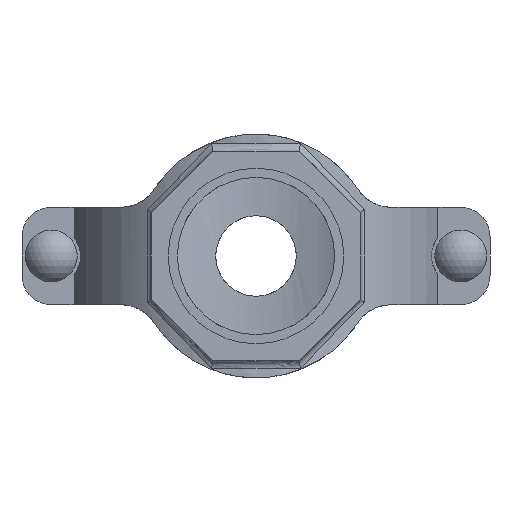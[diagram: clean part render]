
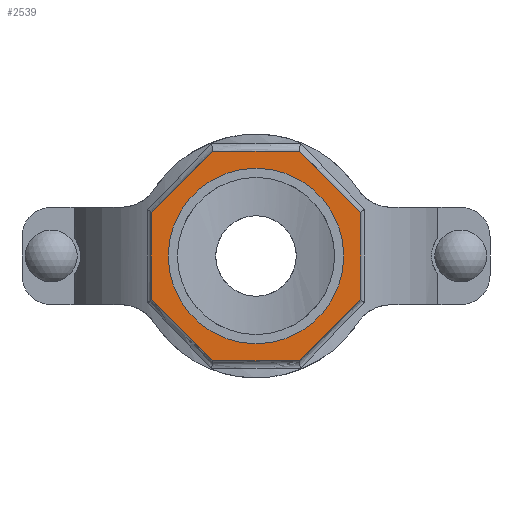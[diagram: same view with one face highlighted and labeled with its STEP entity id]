
A CAD part, front view. The second image highlights one B-rep face of the part: STEP entity #2539.
In plain terms, the highlighted planar face has unit normal (0, -1, 0) as drawn and (0, 1, 0) by its records, which use the part's own axes.
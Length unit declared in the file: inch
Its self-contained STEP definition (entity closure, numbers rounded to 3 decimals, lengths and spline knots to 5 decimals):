
#186=FACE_BOUND('',#459,.T.);
#307=FACE_OUTER_BOUND('',#458,.T.);
#458=EDGE_LOOP('',(#2138,#2139,#2140,#2141,#2142,#2143,#2144,#2145));
#459=EDGE_LOOP('',(#2146));
#594=LINE('',#4629,#780);
#597=LINE('',#4634,#783);
#599=LINE('',#4638,#785);
#601=LINE('',#4642,#787);
#641=LINE('',#5099,#827);
#643=LINE('',#5103,#829);
#645=LINE('',#5107,#831);
#647=LINE('',#5110,#833);
#780=VECTOR('',#3278,0.3937);
#783=VECTOR('',#3283,0.3937);
#785=VECTOR('',#3287,0.3937);
#787=VECTOR('',#3291,0.3937);
#827=VECTOR('',#3427,0.3937);
#829=VECTOR('',#3431,0.3937);
#831=VECTOR('',#3435,0.3937);
#833=VECTOR('',#3439,0.3937);
#919=CIRCLE('',#2802,2.25);
#1097=VERTEX_POINT('',#4626);
#1098=VERTEX_POINT('',#4628);
#1099=VERTEX_POINT('',#4632);
#1100=VERTEX_POINT('',#4636);
#1101=VERTEX_POINT('',#4640);
#1136=VERTEX_POINT('',#4928);
#1160=VERTEX_POINT('',#5098);
#1161=VERTEX_POINT('',#5102);
#1162=VERTEX_POINT('',#5106);
#1408=EDGE_CURVE('',#1098,#1097,#594,.T.);
#1411=EDGE_CURVE('',#1097,#1099,#597,.T.);
#1413=EDGE_CURVE('',#1099,#1100,#599,.T.);
#1415=EDGE_CURVE('',#1100,#1101,#601,.T.);
#1461=EDGE_CURVE('',#1136,#1136,#919,.T.);
#1495=EDGE_CURVE('',#1160,#1098,#641,.T.);
#1497=EDGE_CURVE('',#1161,#1160,#643,.T.);
#1499=EDGE_CURVE('',#1162,#1161,#645,.T.);
#1501=EDGE_CURVE('',#1101,#1162,#647,.T.);
#2138=ORIENTED_EDGE('',*,*,#1501,.T.);
#2139=ORIENTED_EDGE('',*,*,#1499,.T.);
#2140=ORIENTED_EDGE('',*,*,#1497,.T.);
#2141=ORIENTED_EDGE('',*,*,#1495,.T.);
#2142=ORIENTED_EDGE('',*,*,#1408,.T.);
#2143=ORIENTED_EDGE('',*,*,#1411,.T.);
#2144=ORIENTED_EDGE('',*,*,#1413,.T.);
#2145=ORIENTED_EDGE('',*,*,#1415,.T.);
#2146=ORIENTED_EDGE('',*,*,#1461,.T.);
#2280=PLANE('',#2825);
#2539=ADVANCED_FACE('',(#307,#186),#2280,.T.);
#2802=AXIS2_PLACEMENT_3D('',#4929,#3369,#3370);
#2825=AXIS2_PLACEMENT_3D('',#5111,#3440,#3441);
#3278=DIRECTION('',(0.,0.,1.));
#3283=DIRECTION('',(0.707,0.,0.707));
#3287=DIRECTION('',(1.,0.,0.));
#3291=DIRECTION('',(0.707,0.,-0.707));
#3369=DIRECTION('center_axis',(0.,-1.,0.));
#3370=DIRECTION('ref_axis',(-1.,0.,0.));
#3427=DIRECTION('',(-0.707,0.,0.707));
#3431=DIRECTION('',(-1.,0.,0.));
#3435=DIRECTION('',(-0.707,0.,-0.707));
#3439=DIRECTION('',(0.,0.,-1.));
#3440=DIRECTION('center_axis',(0.,1.,0.));
#3441=DIRECTION('ref_axis',(0.,0.,1.));
#4626=CARTESIAN_POINT('',(-2.6875,6.75,1.1132));
#4628=CARTESIAN_POINT('',(-2.6875,6.75,-1.1132));
#4629=CARTESIAN_POINT('',(-2.6875,6.75,1.1132));
#4632=CARTESIAN_POINT('',(-1.1132,6.75,2.6875));
#4634=CARTESIAN_POINT('',(-1.1132,6.75,2.6875));
#4636=CARTESIAN_POINT('',(1.1132,6.75,2.6875));
#4638=CARTESIAN_POINT('',(1.1132,6.75,2.6875));
#4640=CARTESIAN_POINT('',(2.6875,6.75,1.1132));
#4642=CARTESIAN_POINT('',(2.6875,6.75,1.1132));
#4928=CARTESIAN_POINT('',(2.25,6.75,0.));
#4929=CARTESIAN_POINT('Origin',(0.,6.75,0.));
#5098=CARTESIAN_POINT('',(-1.1132,6.75,-2.6875));
#5099=CARTESIAN_POINT('',(-2.6875,6.75,-1.1132));
#5102=CARTESIAN_POINT('',(1.1132,6.75,-2.6875));
#5103=CARTESIAN_POINT('',(-1.1132,6.75,-2.6875));
#5106=CARTESIAN_POINT('',(2.6875,6.75,-1.1132));
#5107=CARTESIAN_POINT('',(1.1132,6.75,-2.6875));
#5110=CARTESIAN_POINT('',(2.6875,6.75,-1.1132));
#5111=CARTESIAN_POINT('Origin',(0.,6.75,0.));
